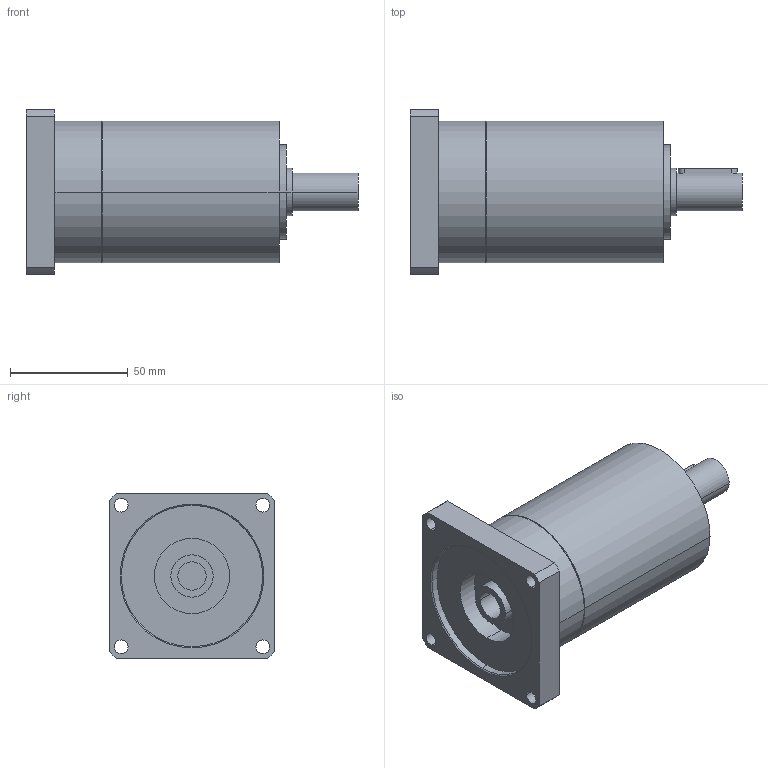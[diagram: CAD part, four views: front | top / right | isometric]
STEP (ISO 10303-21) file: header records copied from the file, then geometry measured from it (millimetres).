
FILE_DESCRIPTION(('CoCreate Modeling STEP Export'),'2;1');
FILE_NAME('GPR75_ig-9-12-16-20-24-30-36_16_B14_12_P30.stp','2014-08-25T16:32:54',(''),(''),'CoCreate Modeling STEP processor for AP214 (Solid Model)','CoCreate Modeling 16.00C 25-Feb-2009 (C) Parametric Technology GmbH','');
FILE_SCHEMA(('AUTOMOTIVE_DESIGN { 1 0 10303 214 1 1 1 1 }'));
Length unit declared in the file: millimetre
Products named in the file (2): GPR75_ig-9-12-16-20-24-30-36_16_B14_12_P30
Assembly tree (1 placements, depth 2):
  GPR75_ig-9-12-16-20-24-30-36_16_B14_12_P30
    GPR75_ig-9-12-16-20-24-30-36_16_B14_12_P30
Bounding box: 140.9 x 70 x 70 mm (x, y, z)
Volume: 318200.9 mm3; surface area: 37624.2 mm2
Topology: 1 solids, 1 shells, 72 faces, 187 edges, 129 vertices
Faces by surface type: cylinder 42, plane 22, cone 8
Entity records: 1954 total; most frequent: ORIENTED_EDGE 370, CARTESIAN_POINT 361, DIRECTION 268, EDGE_CURVE 185, VERTEX_POINT 129, AXIS2_PLACEMENT_3D 100, EDGE_LOOP 94, FACE_OUTER_BOUND 72
